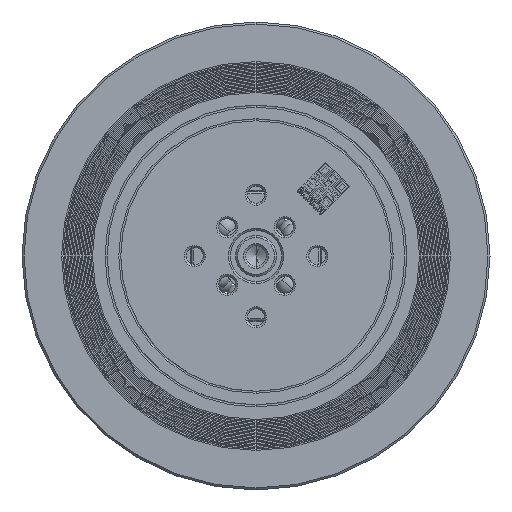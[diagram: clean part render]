
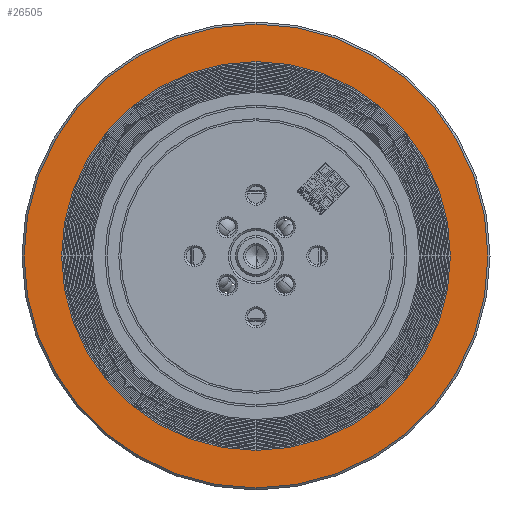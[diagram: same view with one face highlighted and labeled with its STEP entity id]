
A CAD part, front view. The second image highlights one B-rep face of the part: STEP entity #26505.
In plain terms, the highlighted planar face has unit normal (0, -1, 0).
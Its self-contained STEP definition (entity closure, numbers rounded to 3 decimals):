
#326 = ORIENTED_EDGE ( 'NONE', *, *, #82984, .F. ) ;
#1446 = DIRECTION ( 'NONE',  ( 0., 0., -1. ) ) ;
#1519 = DIRECTION ( 'NONE',  ( 0., -1., 0. ) ) ;
#2113 = DIRECTION ( 'NONE',  ( 0., 0., -1. ) ) ;
#4683 = CARTESIAN_POINT ( 'NONE',  ( 0., -12., 0. ) ) ;
#11782 = DIRECTION ( 'NONE',  ( 0., -1., 0. ) ) ;
#16576 = EDGE_LOOP ( 'NONE', ( #326, #49001 ) ) ;
#17460 = DIRECTION ( 'NONE',  ( 0., 0., -1. ) ) ;
#18000 = CARTESIAN_POINT ( 'NONE',  ( 0., -12., 0. ) ) ;
#26505 = ADVANCED_FACE ( 'NONE', ( #52103, #35066 ), #79881, .T. ) ;
#31618 = EDGE_CURVE ( 'NONE', #40038, #63363, #56642, .T. ) ;
#31755 = EDGE_LOOP ( 'NONE', ( #106390, #105980 ) ) ;
#35066 = FACE_OUTER_BOUND ( 'NONE', #31755, .T. ) ;
#35777 = CIRCLE ( 'NONE', #44555, 28.54 ) ;
#38343 = AXIS2_PLACEMENT_3D ( 'NONE', #77656, #11782, #62863 ) ;
#39532 = VERTEX_POINT ( 'NONE', #99111 ) ;
#40038 = VERTEX_POINT ( 'NONE', #78462 ) ;
#44555 = AXIS2_PLACEMENT_3D ( 'NONE', #68449, #103044, #1446 ) ;
#47512 = DIRECTION ( 'NONE',  ( 0., -1., 0. ) ) ;
#49001 = ORIENTED_EDGE ( 'NONE', *, *, #62058, .F. ) ;
#51904 = EDGE_CURVE ( 'NONE', #63363, #40038, #108250, .T. ) ;
#52103 = FACE_BOUND ( 'NONE', #16576, .T. ) ;
#56642 = CIRCLE ( 'NONE', #82844, 34.05 ) ;
#62058 = EDGE_CURVE ( 'NONE', #39532, #104970, #35777, .T. ) ;
#62863 = DIRECTION ( 'NONE',  ( 0., 0., -1. ) ) ;
#63363 = VERTEX_POINT ( 'NONE', #91999 ) ;
#63461 = CARTESIAN_POINT ( 'NONE',  ( 0., -12., -28.54 ) ) ;
#68449 = CARTESIAN_POINT ( 'NONE',  ( 0., -12., 0. ) ) ;
#73200 = AXIS2_PLACEMENT_3D ( 'NONE', #80427, #47512, #80958 ) ;
#77656 = CARTESIAN_POINT ( 'NONE',  ( 0., -12., 0. ) ) ;
#78462 = CARTESIAN_POINT ( 'NONE',  ( 0., -12., -34.05 ) ) ;
#79881 = PLANE ( 'NONE',  #104550 ) ;
#80427 = CARTESIAN_POINT ( 'NONE',  ( 0., -12., 0. ) ) ;
#80958 = DIRECTION ( 'NONE',  ( 0., 0., -1. ) ) ;
#82844 = AXIS2_PLACEMENT_3D ( 'NONE', #18000, #1519, #17460 ) ;
#82984 = EDGE_CURVE ( 'NONE', #104970, #39532, #85678, .T. ) ;
#85565 = DIRECTION ( 'NONE',  ( 0., -1., 0. ) ) ;
#85678 = CIRCLE ( 'NONE', #38343, 28.54 ) ;
#91999 = CARTESIAN_POINT ( 'NONE',  ( 0., -12., 34.05 ) ) ;
#99111 = CARTESIAN_POINT ( 'NONE',  ( 0., -12., 28.54 ) ) ;
#103044 = DIRECTION ( 'NONE',  ( 0., -1., 0. ) ) ;
#104550 = AXIS2_PLACEMENT_3D ( 'NONE', #4683, #85565, #2113 ) ;
#104970 = VERTEX_POINT ( 'NONE', #63461 ) ;
#105980 = ORIENTED_EDGE ( 'NONE', *, *, #31618, .T. ) ;
#106390 = ORIENTED_EDGE ( 'NONE', *, *, #51904, .T. ) ;
#108250 = CIRCLE ( 'NONE', #73200, 34.05 ) ;
